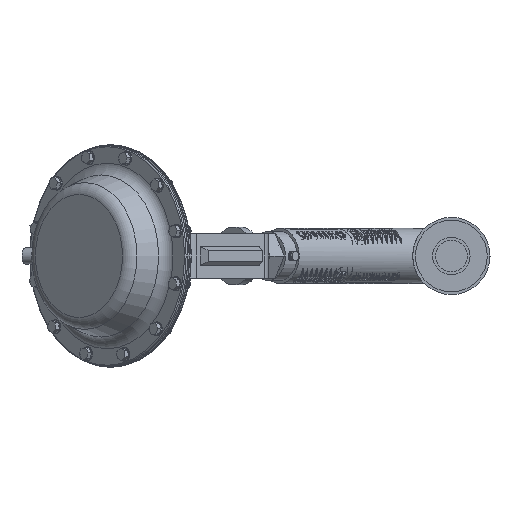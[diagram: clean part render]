
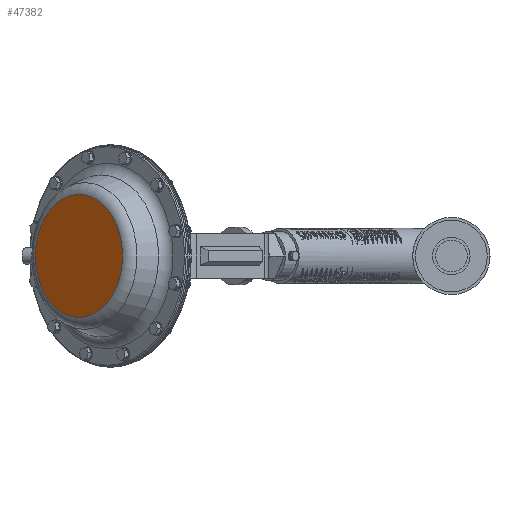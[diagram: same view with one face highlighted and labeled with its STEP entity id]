
A CAD part, left-side view. The second image highlights one B-rep face of the part: STEP entity #47382.
In plain terms, the highlighted planar face has unit normal (-0.707, 0.707, 0).
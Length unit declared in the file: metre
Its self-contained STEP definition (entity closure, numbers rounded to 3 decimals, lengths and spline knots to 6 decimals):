
#7188 = CARTESIAN_POINT ( 'NONE',  ( -6.118032, 16.868032, 2.79 ) ) ;
#7642 = PLANE ( 'NONE',  #23144 ) ;
#9948 = CARTESIAN_POINT ( 'NONE',  ( -6.118032, 16.868032, 0. ) ) ;
#17046 = DIRECTION ( 'NONE',  ( 0.707, -0.707, 0. ) ) ;
#19033 = DIRECTION ( 'NONE',  ( 0.707, -0.707, 0. ) ) ;
#19666 = DIRECTION ( 'NONE',  ( 0., 0., 1. ) ) ;
#21582 = FACE_OUTER_BOUND ( 'NONE', #49885, .T. ) ;
#23144 = AXIS2_PLACEMENT_3D ( 'NONE', #41709, #17046, #27422 ) ;
#23251 = AXIS2_PLACEMENT_3D ( 'NONE', #9948, #19033, #19666 ) ;
#27422 = DIRECTION ( 'NONE',  ( 0., 0., 1. ) ) ;
#28389 = CIRCLE ( 'NONE', #23251, 2.79 ) ;
#41709 = CARTESIAN_POINT ( 'NONE',  ( -4.145204, 18.84086, 0. ) ) ;
#41907 = VERTEX_POINT ( 'NONE', #7188 ) ;
#47382 = ADVANCED_FACE ( 'NONE', ( #21582 ), #7642, .F. ) ;
#47706 = ORIENTED_EDGE ( 'NONE', *, *, #53552, .F. ) ;
#49885 = EDGE_LOOP ( 'NONE', ( #47706 ) ) ;
#53552 = EDGE_CURVE ( 'NONE', #41907, #41907, #28389, .T. ) ;
